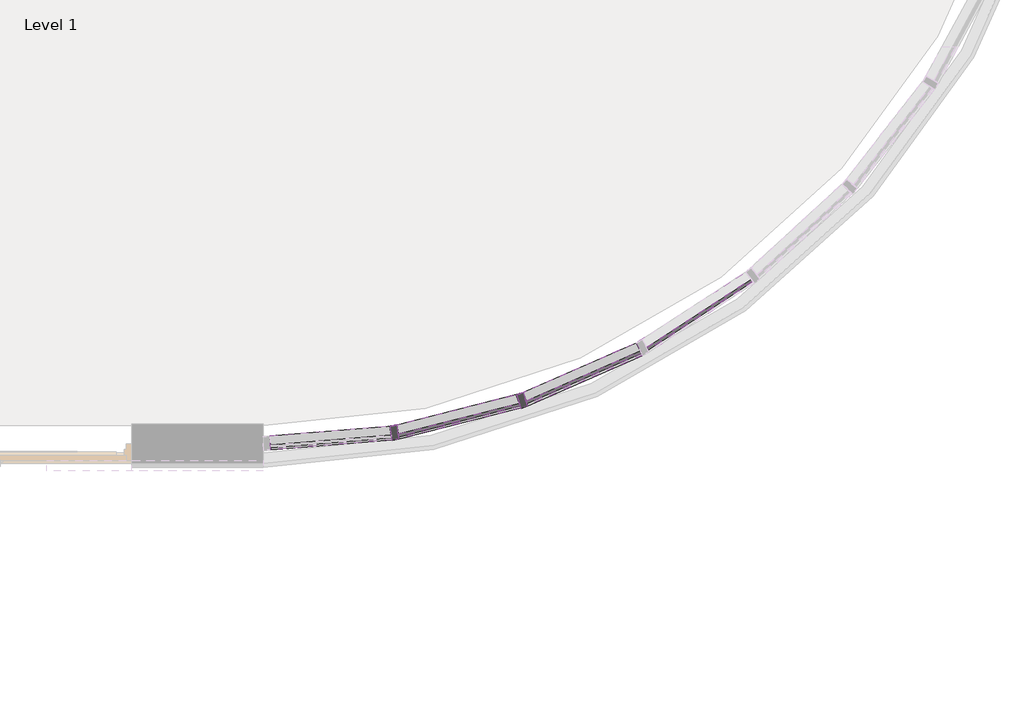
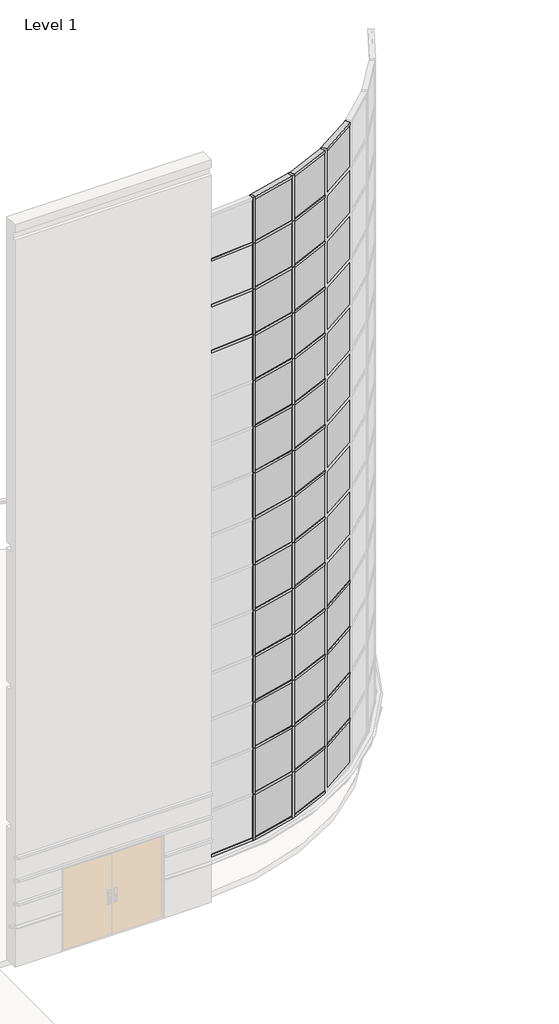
# One storey, part 5 of 20: 67 members, 42 plates.
"""IFC4 building model written with IfcOpenShell, lengths in millimetres."""

from ifc_helpers import new_model, si_unit, origin, place, context, project, spatial, transform, mapped, element, save
from components import member_68fe8548, member_252506b7, member_f830fa99, member_2e3765b8, member_935f61b8, system_panel_glazed_da602fa6, system_panel_glazed_77fd207e

model = new_model("IFC4")

# Units and contexts
model_context = context("Model", 3, world=origin())
ifc_project = project(units=[si_unit("LENGTHUNIT", "METRE", prefix="MILLI")], contexts=[model_context])

# Site, building, storey
site = spatial("IfcSite", under=ifc_project)
building = spatial("IfcBuilding", under=site)
storey = spatial("IfcBuildingStorey", under=building, Name="Level 1", Elevation=0.0)

# Members
placement = place(None, origin())
member_shape = member_68fe8548(model_context)
element("IfcMember", 1, ObjectType="Rectangular Mullion : 2.5\" x 5\" rectangular", at=placement, inside=storey, context=model_context, shape_type="MappedRepresentation", body=[
    mapped(member_shape, transform((21362.2965016, -8766.9966782, 17983.2), x_axis=(0.0, 0.0, 1.0), y_axis=(-0.5469481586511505, 0.8371664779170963, 0.0), z_axis=(-0.8371664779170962, -0.5469481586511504, 0.0))),
])
element("IfcMember", 2, ObjectType="Rectangular Mullion : 2.5\" x 5\" rectangular", at=placement, inside=storey, context=model_context, shape_type="MappedRepresentation", body=[
    mapped(member_shape, transform((20285.0352325, -9245.2338023, 17983.2), x_axis=(0.0, 0.0, 1.0), y_axis=(-0.4016954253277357, 0.9157733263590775, 0.0), z_axis=(-0.9157733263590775, -0.4016954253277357, 0.0))),
])
element("IfcMember", 3, ObjectType="Rectangular Mullion : 2.5\" x 5\" rectangular", at=placement, inside=storey, context=model_context, shape_type="MappedRepresentation", body=[
    mapped(member_shape, transform((19143.7511594, -9539.6370183, 17983.2), x_axis=(0.0, 0.0, 1.0), y_axis=(-0.24548548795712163, 0.9694002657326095, 0.0), z_axis=(-0.9694002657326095, -0.24548548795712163, 0.0))),
])
element("IfcMember", 4, ObjectType="Rectangular Mullion : 2.5\" x 5\" rectangular", at=placement, inside=storey, context=model_context, shape_type="MappedRepresentation", body=[
    mapped(member_shape, transform((21306.6406628, -8797.1161119, 1092.2), x_axis=(0.0, 0.0, -1.0), y_axis=(-0.401695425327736, 0.9157733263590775, 0.0), z_axis=(0.9157733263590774, 0.40169542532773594, 0.0))),
])
element("IfcMember", 5, ObjectType="Rectangular Mullion : 2.5\" x 5\" rectangular", at=placement, inside=storey, context=model_context, shape_type="MappedRepresentation", body=[
    mapped(member_shape, transform((20225.1809709, -9265.7817963, 1092.2), x_axis=(0.0, 0.0, -1.0), y_axis=(-0.24548548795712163, 0.9694002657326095, 0.0), z_axis=(0.9694002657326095, 0.24548548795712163, 0.0))),
])
member_2_shape = member_252506b7(model_context)
element("IfcMember", 6, ObjectType="Rectangular Mullion : 2.5\" x 5\" rectangular", at=placement, inside=storey, context=model_context, shape_type="MappedRepresentation", body=[
    mapped(member_2_shape, transform((19081.3311433, -9550.0530767, 1092.2), x_axis=(0.0, 0.0, -1.0), y_axis=(-0.08257934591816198, 0.9965844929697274, 0.0), z_axis=(0.9965844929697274, 0.08257934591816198, 0.0))),
])
member_3_shape = member_f830fa99(model_context)
element("IfcMember", 7, ObjectType="Rectangular Mullion : 2.5\" x 5\" rectangular", at=placement, inside=storey, context=model_context, shape_type="MappedRepresentation", body=[
    mapped(member_3_shape, transform((21362.2965016, -8766.9966782, 2298.7), x_axis=(0.0, 0.0, 1.0), y_axis=(-0.5469481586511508, 0.837166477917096, 0.0), z_axis=(-0.837166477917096, -0.5469481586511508, 0.0))),
])
element("IfcMember", 8, ObjectType="Rectangular Mullion : 2.5\" x 5\" rectangular", at=placement, inside=storey, context=model_context, shape_type="MappedRepresentation", body=[
    mapped(member_3_shape, transform((20285.0352325, -9245.2338023, 2298.7), x_axis=(0.0, 0.0, 1.0), y_axis=(-0.40169542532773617, 0.9157733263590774, 0.0), z_axis=(-0.9157733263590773, -0.4016954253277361, 0.0))),
])
element("IfcMember", 9, ObjectType="Rectangular Mullion : 2.5\" x 5\" rectangular", at=placement, inside=storey, context=model_context, shape_type="MappedRepresentation", body=[
    mapped(member_3_shape, transform((19143.7511594, -9539.6370183, 2298.7), x_axis=(0.0, 0.0, 1.0), y_axis=(-0.2454854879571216, 0.9694002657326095, 0.0), z_axis=(-0.9694002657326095, -0.2454854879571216, 0.0))),
])
element("IfcMember", 10, ObjectType="Rectangular Mullion : 2.5\" x 5\" rectangular", at=placement, inside=storey, context=model_context, shape_type="MappedRepresentation", body=[
    mapped(member_3_shape, transform((21362.2965016, -8766.9966782, 3505.2), x_axis=(0.0, 0.0, 1.0), y_axis=(-0.5469481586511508, 0.837166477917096, 0.0), z_axis=(-0.837166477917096, -0.5469481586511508, 0.0))),
])
element("IfcMember", 11, ObjectType="Rectangular Mullion : 2.5\" x 5\" rectangular", at=placement, inside=storey, context=model_context, shape_type="MappedRepresentation", body=[
    mapped(member_3_shape, transform((20285.0352325, -9245.2338023, 3505.2), x_axis=(0.0, 0.0, 1.0), y_axis=(-0.40169542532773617, 0.9157733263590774, 0.0), z_axis=(-0.9157733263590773, -0.4016954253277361, 0.0))),
])
element("IfcMember", 12, ObjectType="Rectangular Mullion : 2.5\" x 5\" rectangular", at=placement, inside=storey, context=model_context, shape_type="MappedRepresentation", body=[
    mapped(member_3_shape, transform((19143.7511594, -9539.6370183, 3505.2), x_axis=(0.0, 0.0, 1.0), y_axis=(-0.24548548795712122, 0.9694002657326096, 0.0), z_axis=(-0.9694002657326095, -0.2454854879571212, 0.0))),
])
element("IfcMember", 13, ObjectType="Rectangular Mullion : 2.5\" x 5\" rectangular", at=placement, inside=storey, context=model_context, shape_type="MappedRepresentation", body=[
    mapped(member_3_shape, transform((21362.2965016, -8766.9966782, 4711.7), x_axis=(0.0, 0.0, 1.0), y_axis=(-0.5469481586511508, 0.837166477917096, 0.0), z_axis=(-0.837166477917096, -0.5469481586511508, 0.0))),
])
element("IfcMember", 14, ObjectType="Rectangular Mullion : 2.5\" x 5\" rectangular", at=placement, inside=storey, context=model_context, shape_type="MappedRepresentation", body=[
    mapped(member_3_shape, transform((20285.0352325, -9245.2338023, 4711.7), x_axis=(0.0, 0.0, 1.0), y_axis=(-0.40169542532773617, 0.9157733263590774, 0.0), z_axis=(-0.9157733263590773, -0.4016954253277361, 0.0))),
])
element("IfcMember", 15, ObjectType="Rectangular Mullion : 2.5\" x 5\" rectangular", at=placement, inside=storey, context=model_context, shape_type="MappedRepresentation", body=[
    mapped(member_3_shape, transform((19143.7511594, -9539.6370183, 4711.7), x_axis=(0.0, 0.0, 1.0), y_axis=(-0.24548548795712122, 0.9694002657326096, 0.0), z_axis=(-0.9694002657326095, -0.2454854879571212, 0.0))),
])
element("IfcMember", 16, ObjectType="Rectangular Mullion : 2.5\" x 5\" rectangular", at=placement, inside=storey, context=model_context, shape_type="MappedRepresentation", body=[
    mapped(member_3_shape, transform((21362.2965016, -8766.9966782, 5918.2), x_axis=(0.0, 0.0, 1.0), y_axis=(-0.5469481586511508, 0.837166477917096, 0.0), z_axis=(-0.837166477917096, -0.5469481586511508, 0.0))),
])
element("IfcMember", 17, ObjectType="Rectangular Mullion : 2.5\" x 5\" rectangular", at=placement, inside=storey, context=model_context, shape_type="MappedRepresentation", body=[
    mapped(member_3_shape, transform((20285.0352325, -9245.2338023, 5918.2), x_axis=(0.0, 0.0, 1.0), y_axis=(-0.40169542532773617, 0.9157733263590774, 0.0), z_axis=(-0.9157733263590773, -0.4016954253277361, 0.0))),
])
element("IfcMember", 18, ObjectType="Rectangular Mullion : 2.5\" x 5\" rectangular", at=placement, inside=storey, context=model_context, shape_type="MappedRepresentation", body=[
    mapped(member_3_shape, transform((19143.7511594, -9539.6370183, 5918.2), x_axis=(0.0, 0.0, 1.0), y_axis=(-0.24548548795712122, 0.9694002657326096, 0.0), z_axis=(-0.9694002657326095, -0.2454854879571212, 0.0))),
])
element("IfcMember", 19, ObjectType="Rectangular Mullion : 2.5\" x 5\" rectangular", at=placement, inside=storey, context=model_context, shape_type="MappedRepresentation", body=[
    mapped(member_3_shape, transform((20285.0352325, -9245.2338023, 7124.7), x_axis=(0.0, 0.0, 1.0), y_axis=(-0.4016954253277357, 0.9157733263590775, 0.0), z_axis=(-0.9157733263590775, -0.4016954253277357, 0.0))),
])
element("IfcMember", 20, ObjectType="Rectangular Mullion : 2.5\" x 5\" rectangular", at=placement, inside=storey, context=model_context, shape_type="MappedRepresentation", body=[
    mapped(member_3_shape, transform((19143.7511594, -9539.6370183, 7124.7), x_axis=(0.0, 0.0, 1.0), y_axis=(-0.24548548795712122, 0.9694002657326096, 0.0), z_axis=(-0.9694002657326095, -0.2454854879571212, 0.0))),
])
element("IfcMember", 21, ObjectType="Rectangular Mullion : 2.5\" x 5\" rectangular", at=placement, inside=storey, context=model_context, shape_type="MappedRepresentation", body=[
    mapped(member_3_shape, transform((20285.0352325, -9245.2338023, 8331.2), x_axis=(0.0, 0.0, 1.0), y_axis=(-0.4016954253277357, 0.9157733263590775, 0.0), z_axis=(-0.9157733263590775, -0.4016954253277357, 0.0))),
])
element("IfcMember", 22, ObjectType="Rectangular Mullion : 2.5\" x 5\" rectangular", at=placement, inside=storey, context=model_context, shape_type="MappedRepresentation", body=[
    mapped(member_3_shape, transform((19143.7511594, -9539.6370183, 8331.2), x_axis=(0.0, 0.0, 1.0), y_axis=(-0.24548548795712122, 0.9694002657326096, 0.0), z_axis=(-0.9694002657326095, -0.2454854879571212, 0.0))),
])
element("IfcMember", 23, ObjectType="Rectangular Mullion : 2.5\" x 5\" rectangular", at=placement, inside=storey, context=model_context, shape_type="MappedRepresentation", body=[
    mapped(member_3_shape, transform((20285.0352325, -9245.2338023, 9537.7), x_axis=(0.0, 0.0, 1.0), y_axis=(-0.4016954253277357, 0.9157733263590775, 0.0), z_axis=(-0.9157733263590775, -0.4016954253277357, 0.0))),
])
element("IfcMember", 24, ObjectType="Rectangular Mullion : 2.5\" x 5\" rectangular", at=placement, inside=storey, context=model_context, shape_type="MappedRepresentation", body=[
    mapped(member_3_shape, transform((19143.7511594, -9539.6370183, 9537.7), x_axis=(0.0, 0.0, 1.0), y_axis=(-0.24548548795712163, 0.9694002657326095, 0.0), z_axis=(-0.9694002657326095, -0.24548548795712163, 0.0))),
])
element("IfcMember", 25, ObjectType="Rectangular Mullion : 2.5\" x 5\" rectangular", at=placement, inside=storey, context=model_context, shape_type="MappedRepresentation", body=[
    mapped(member_3_shape, transform((20285.0352325, -9245.2338023, 10744.2), x_axis=(0.0, 0.0, 1.0), y_axis=(-0.4016954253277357, 0.9157733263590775, 0.0), z_axis=(-0.9157733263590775, -0.4016954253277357, 0.0))),
])
element("IfcMember", 26, ObjectType="Rectangular Mullion : 2.5\" x 5\" rectangular", at=placement, inside=storey, context=model_context, shape_type="MappedRepresentation", body=[
    mapped(member_3_shape, transform((19143.7511594, -9539.6370183, 10744.2), x_axis=(0.0, 0.0, 1.0), y_axis=(-0.24548548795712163, 0.9694002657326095, 0.0), z_axis=(-0.9694002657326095, -0.24548548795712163, 0.0))),
])
element("IfcMember", 27, ObjectType="Rectangular Mullion : 2.5\" x 5\" rectangular", at=placement, inside=storey, context=model_context, shape_type="MappedRepresentation", body=[
    mapped(member_3_shape, transform((20285.0352325, -9245.2338023, 11950.7), x_axis=(0.0, 0.0, 1.0), y_axis=(-0.4016954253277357, 0.9157733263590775, 0.0), z_axis=(-0.9157733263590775, -0.4016954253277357, 0.0))),
])
element("IfcMember", 28, ObjectType="Rectangular Mullion : 2.5\" x 5\" rectangular", at=placement, inside=storey, context=model_context, shape_type="MappedRepresentation", body=[
    mapped(member_3_shape, transform((19143.7511594, -9539.6370183, 11950.7), x_axis=(0.0, 0.0, 1.0), y_axis=(-0.24548548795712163, 0.9694002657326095, 0.0), z_axis=(-0.9694002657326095, -0.24548548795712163, 0.0))),
])
element("IfcMember", 29, ObjectType="Rectangular Mullion : 2.5\" x 5\" rectangular", at=placement, inside=storey, context=model_context, shape_type="MappedRepresentation", body=[
    mapped(member_3_shape, transform((20285.0352325, -9245.2338023, 13157.2), x_axis=(0.0, 0.0, 1.0), y_axis=(-0.40169542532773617, 0.9157733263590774, 0.0), z_axis=(-0.9157733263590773, -0.4016954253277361, 0.0))),
])
element("IfcMember", 30, ObjectType="Rectangular Mullion : 2.5\" x 5\" rectangular", at=placement, inside=storey, context=model_context, shape_type="MappedRepresentation", body=[
    mapped(member_3_shape, transform((19143.7511594, -9539.6370183, 13157.2), x_axis=(0.0, 0.0, 1.0), y_axis=(-0.2454854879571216, 0.9694002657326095, 0.0), z_axis=(-0.9694002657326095, -0.2454854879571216, 0.0))),
])
element("IfcMember", 31, ObjectType="Rectangular Mullion : 2.5\" x 5\" rectangular", at=placement, inside=storey, context=model_context, shape_type="MappedRepresentation", body=[
    mapped(member_3_shape, transform((20285.0352325, -9245.2338023, 14363.7), x_axis=(0.0, 0.0, 1.0), y_axis=(-0.4016954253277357, 0.9157733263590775, 0.0), z_axis=(-0.9157733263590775, -0.4016954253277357, 0.0))),
])
element("IfcMember", 32, ObjectType="Rectangular Mullion : 2.5\" x 5\" rectangular", at=placement, inside=storey, context=model_context, shape_type="MappedRepresentation", body=[
    mapped(member_3_shape, transform((19143.7511594, -9539.6370183, 14363.7), x_axis=(0.0, 0.0, 1.0), y_axis=(-0.24548548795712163, 0.9694002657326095, 0.0), z_axis=(-0.9694002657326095, -0.24548548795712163, 0.0))),
])
element("IfcMember", 33, ObjectType="Rectangular Mullion : 2.5\" x 5\" rectangular", at=placement, inside=storey, context=model_context, shape_type="MappedRepresentation", body=[
    mapped(member_3_shape, transform((20285.0352325, -9245.2338023, 15570.2), x_axis=(0.0, 0.0, 1.0), y_axis=(-0.40169542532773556, 0.9157733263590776, 0.0), z_axis=(-0.9157733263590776, -0.40169542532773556, 0.0))),
])
element("IfcMember", 34, ObjectType="Rectangular Mullion : 2.5\" x 5\" rectangular", at=placement, inside=storey, context=model_context, shape_type="MappedRepresentation", body=[
    mapped(member_3_shape, transform((19143.7511594, -9539.6370183, 15570.2), x_axis=(0.0, 0.0, 1.0), y_axis=(-0.24548548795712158, 0.9694002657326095, 0.0), z_axis=(-0.9694002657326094, -0.24548548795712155, 0.0))),
])
element("IfcMember", 35, ObjectType="Rectangular Mullion : 2.5\" x 5\" rectangular", at=placement, inside=storey, context=model_context, shape_type="MappedRepresentation", body=[
    mapped(member_3_shape, transform((20285.0352325, -9245.2338023, 16776.7), x_axis=(0.0, 0.0, 1.0), y_axis=(-0.40169542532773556, 0.9157733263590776, 0.0), z_axis=(-0.9157733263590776, -0.40169542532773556, 0.0))),
])
element("IfcMember", 36, ObjectType="Rectangular Mullion : 2.5\" x 5\" rectangular", at=placement, inside=storey, context=model_context, shape_type="MappedRepresentation", body=[
    mapped(member_3_shape, transform((19143.7511594, -9539.6370183, 16776.7), x_axis=(0.0, 0.0, 1.0), y_axis=(-0.24548548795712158, 0.9694002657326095, 0.0), z_axis=(-0.9694002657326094, -0.24548548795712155, 0.0))),
])
member_4_shape = member_2e3765b8(model_context)
element("IfcMember", 37, ObjectType="Rectangular Mullion : 2.5\" x 5\" rectangular", at=placement, inside=storey, context=model_context, shape_type="MappedRepresentation", body=[
    mapped(member_4_shape, transform((18001.2170874, -9639.5538796, 14363.7), x_axis=(0.0, 0.0, 1.0), y_axis=(-0.08257934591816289, 0.9965844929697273, 0.0), z_axis=(-0.9965844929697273, -0.08257934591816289, 0.0))),
])
element("IfcMember", 38, ObjectType="Rectangular Mullion : 2.5\" x 5\" rectangular", at=placement, inside=storey, context=model_context, shape_type="MappedRepresentation", body=[
    mapped(member_4_shape, transform((18001.2170874, -9639.5538796, 15570.2), x_axis=(0.0, 0.0, 1.0), y_axis=(-0.08257934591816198, 0.9965844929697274, 0.0), z_axis=(-0.9965844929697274, -0.08257934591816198, 0.0))),
])
element("IfcMember", 39, ObjectType="Rectangular Mullion : 2.5\" x 5\" rectangular", at=placement, inside=storey, context=model_context, shape_type="MappedRepresentation", body=[
    mapped(member_4_shape, transform((18001.2170874, -9639.5538796, 16776.7), x_axis=(0.0, 0.0, 1.0), y_axis=(-0.08257934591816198, 0.9965844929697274, 0.0), z_axis=(-0.9965844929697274, -0.08257934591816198, 0.0))),
])
member_5_shape = member_935f61b8(model_context)
element("IfcMember", 40, ObjectType="Rectangular Mullion : 2.5\" x 5\" rectangular", at=placement, inside=storey, context=model_context, shape_type="MappedRepresentation", body=[
    mapped(member_5_shape, transform((20255.9594293, -9257.987632, 1092.2), x_axis=(-0.9458172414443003, -0.3246994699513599, 0.0), y_axis=(-0.3246994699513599, 0.9458172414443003, 0.0), z_axis=(0.0, 0.0, -1.0))),
])
element("IfcMember", 41, ObjectType="Rectangular Mullion : 2.5\" x 5\" rectangular", at=placement, inside=storey, context=model_context, shape_type="MappedRepresentation", body=[
    mapped(member_5_shape, transform((19112.972701, -9547.4311825, 1092.2), x_axis=(-0.986361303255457, -0.16459459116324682, 0.0), y_axis=(-0.16459459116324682, 0.986361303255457, 0.0), z_axis=(0.0, 0.0, -1.0))),
])
element("IfcMember", 42, ObjectType="Rectangular Mullion : 2.5\" x 5\" rectangular", at=placement, inside=storey, context=model_context, shape_type="MappedRepresentation", body=[
    mapped(member_5_shape, transform((20255.9594293, -9257.987632, 2298.7), x_axis=(-0.9458172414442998, -0.32469946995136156, 0.0), y_axis=(-0.32469946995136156, 0.9458172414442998, 0.0), z_axis=(0.0, 0.0, -1.0))),
])
element("IfcMember", 43, ObjectType="Rectangular Mullion : 2.5\" x 5\" rectangular", at=placement, inside=storey, context=model_context, shape_type="MappedRepresentation", body=[
    mapped(member_5_shape, transform((19112.972701, -9547.4311825, 2298.7), x_axis=(-0.986361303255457, -0.16459459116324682, 0.0), y_axis=(-0.16459459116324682, 0.986361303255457, 0.0), z_axis=(0.0, 0.0, -1.0))),
])
element("IfcMember", 44, ObjectType="Rectangular Mullion : 2.5\" x 5\" rectangular", at=placement, inside=storey, context=model_context, shape_type="MappedRepresentation", body=[
    mapped(member_5_shape, transform((20255.9594293, -9257.987632, 3505.2), x_axis=(-0.9458172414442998, -0.32469946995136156, 0.0), y_axis=(-0.32469946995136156, 0.9458172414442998, 0.0), z_axis=(0.0, 0.0, -1.0))),
])
element("IfcMember", 45, ObjectType="Rectangular Mullion : 2.5\" x 5\" rectangular", at=placement, inside=storey, context=model_context, shape_type="MappedRepresentation", body=[
    mapped(member_5_shape, transform((19112.972701, -9547.4311825, 3505.2), x_axis=(-0.986361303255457, -0.16459459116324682, 0.0), y_axis=(-0.16459459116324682, 0.986361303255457, 0.0), z_axis=(0.0, 0.0, -1.0))),
])
element("IfcMember", 46, ObjectType="Rectangular Mullion : 2.5\" x 5\" rectangular", at=placement, inside=storey, context=model_context, shape_type="MappedRepresentation", body=[
    mapped(member_5_shape, transform((20255.9594293, -9257.987632, 4711.7), x_axis=(-0.9458172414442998, -0.32469946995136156, 0.0), y_axis=(-0.32469946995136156, 0.9458172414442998, 0.0), z_axis=(0.0, 0.0, -1.0))),
])
element("IfcMember", 47, ObjectType="Rectangular Mullion : 2.5\" x 5\" rectangular", at=placement, inside=storey, context=model_context, shape_type="MappedRepresentation", body=[
    mapped(member_5_shape, transform((19112.972701, -9547.4311825, 4711.7), x_axis=(-0.986361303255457, -0.16459459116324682, 0.0), y_axis=(-0.16459459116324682, 0.986361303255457, 0.0), z_axis=(0.0, 0.0, -1.0))),
])
element("IfcMember", 48, ObjectType="Rectangular Mullion : 2.5\" x 5\" rectangular", at=placement, inside=storey, context=model_context, shape_type="MappedRepresentation", body=[
    mapped(member_5_shape, transform((20255.9594293, -9257.987632, 5918.2), x_axis=(-0.9458172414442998, -0.32469946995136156, 0.0), y_axis=(-0.32469946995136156, 0.9458172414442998, 0.0), z_axis=(0.0, 0.0, -1.0))),
])
element("IfcMember", 49, ObjectType="Rectangular Mullion : 2.5\" x 5\" rectangular", at=placement, inside=storey, context=model_context, shape_type="MappedRepresentation", body=[
    mapped(member_5_shape, transform((19112.972701, -9547.4311825, 5918.2), x_axis=(-0.986361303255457, -0.16459459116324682, 0.0), y_axis=(-0.16459459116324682, 0.986361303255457, 0.0), z_axis=(0.0, 0.0, -1.0))),
])
element("IfcMember", 50, ObjectType="Rectangular Mullion : 2.5\" x 5\" rectangular", at=placement, inside=storey, context=model_context, shape_type="MappedRepresentation", body=[
    mapped(member_5_shape, transform((20255.9594293, -9257.987632, 7124.7), x_axis=(-0.9458172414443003, -0.3246994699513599, 0.0), y_axis=(-0.3246994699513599, 0.9458172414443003, 0.0), z_axis=(0.0, 0.0, -1.0))),
])
element("IfcMember", 51, ObjectType="Rectangular Mullion : 2.5\" x 5\" rectangular", at=placement, inside=storey, context=model_context, shape_type="MappedRepresentation", body=[
    mapped(member_5_shape, transform((19112.972701, -9547.4311825, 7124.7), x_axis=(-0.986361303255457, -0.16459459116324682, 0.0), y_axis=(-0.16459459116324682, 0.986361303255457, 0.0), z_axis=(0.0, 0.0, -1.0))),
])
element("IfcMember", 52, ObjectType="Rectangular Mullion : 2.5\" x 5\" rectangular", at=placement, inside=storey, context=model_context, shape_type="MappedRepresentation", body=[
    mapped(member_5_shape, transform((20255.9594293, -9257.987632, 8331.2), x_axis=(-0.9458172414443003, -0.3246994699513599, 0.0), y_axis=(-0.3246994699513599, 0.9458172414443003, 0.0), z_axis=(0.0, 0.0, -1.0))),
])
element("IfcMember", 53, ObjectType="Rectangular Mullion : 2.5\" x 5\" rectangular", at=placement, inside=storey, context=model_context, shape_type="MappedRepresentation", body=[
    mapped(member_5_shape, transform((19112.972701, -9547.4311825, 8331.2), x_axis=(-0.986361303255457, -0.16459459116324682, 0.0), y_axis=(-0.16459459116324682, 0.986361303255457, 0.0), z_axis=(0.0, 0.0, -1.0))),
])
element("IfcMember", 54, ObjectType="Rectangular Mullion : 2.5\" x 5\" rectangular", at=placement, inside=storey, context=model_context, shape_type="MappedRepresentation", body=[
    mapped(member_5_shape, transform((20255.9594293, -9257.987632, 9537.7), x_axis=(-0.9458172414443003, -0.3246994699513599, 0.0), y_axis=(-0.3246994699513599, 0.9458172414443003, 0.0), z_axis=(0.0, 0.0, -1.0))),
])
element("IfcMember", 55, ObjectType="Rectangular Mullion : 2.5\" x 5\" rectangular", at=placement, inside=storey, context=model_context, shape_type="MappedRepresentation", body=[
    mapped(member_5_shape, transform((19112.972701, -9547.4311825, 9537.7), x_axis=(-0.986361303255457, -0.16459459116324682, 0.0), y_axis=(-0.16459459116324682, 0.986361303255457, 0.0), z_axis=(0.0, 0.0, -1.0))),
])
element("IfcMember", 56, ObjectType="Rectangular Mullion : 2.5\" x 5\" rectangular", at=placement, inside=storey, context=model_context, shape_type="MappedRepresentation", body=[
    mapped(member_5_shape, transform((20255.9594293, -9257.987632, 10744.2), x_axis=(-0.9458172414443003, -0.3246994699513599, 0.0), y_axis=(-0.3246994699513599, 0.9458172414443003, 0.0), z_axis=(0.0, 0.0, -1.0))),
])
element("IfcMember", 57, ObjectType="Rectangular Mullion : 2.5\" x 5\" rectangular", at=placement, inside=storey, context=model_context, shape_type="MappedRepresentation", body=[
    mapped(member_5_shape, transform((19112.972701, -9547.4311825, 10744.2), x_axis=(-0.986361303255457, -0.16459459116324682, 0.0), y_axis=(-0.16459459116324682, 0.986361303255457, 0.0), z_axis=(0.0, 0.0, -1.0))),
])
element("IfcMember", 58, ObjectType="Rectangular Mullion : 2.5\" x 5\" rectangular", at=placement, inside=storey, context=model_context, shape_type="MappedRepresentation", body=[
    mapped(member_5_shape, transform((20255.9594293, -9257.987632, 11950.7), x_axis=(-0.9458172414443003, -0.3246994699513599, 0.0), y_axis=(-0.3246994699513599, 0.9458172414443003, 0.0), z_axis=(0.0, 0.0, -1.0))),
])
element("IfcMember", 59, ObjectType="Rectangular Mullion : 2.5\" x 5\" rectangular", at=placement, inside=storey, context=model_context, shape_type="MappedRepresentation", body=[
    mapped(member_5_shape, transform((19112.972701, -9547.4311825, 11950.7), x_axis=(-0.986361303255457, -0.16459459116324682, 0.0), y_axis=(-0.16459459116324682, 0.986361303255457, 0.0), z_axis=(0.0, 0.0, -1.0))),
])
element("IfcMember", 60, ObjectType="Rectangular Mullion : 2.5\" x 5\" rectangular", at=placement, inside=storey, context=model_context, shape_type="MappedRepresentation", body=[
    mapped(member_5_shape, transform((20255.9594293, -9257.987632, 13157.2), x_axis=(-0.9458172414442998, -0.32469946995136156, 0.0), y_axis=(-0.32469946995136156, 0.9458172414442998, 0.0), z_axis=(0.0, 0.0, -1.0))),
])
element("IfcMember", 61, ObjectType="Rectangular Mullion : 2.5\" x 5\" rectangular", at=placement, inside=storey, context=model_context, shape_type="MappedRepresentation", body=[
    mapped(member_5_shape, transform((19112.972701, -9547.4311825, 13157.2), x_axis=(-0.986361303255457, -0.16459459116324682, 0.0), y_axis=(-0.16459459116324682, 0.986361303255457, 0.0), z_axis=(0.0, 0.0, -1.0))),
])
element("IfcMember", 62, ObjectType="Rectangular Mullion : 2.5\" x 5\" rectangular", at=placement, inside=storey, context=model_context, shape_type="MappedRepresentation", body=[
    mapped(member_5_shape, transform((20255.9594293, -9257.987632, 14363.7), x_axis=(-0.9458172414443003, -0.3246994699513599, 0.0), y_axis=(-0.3246994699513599, 0.9458172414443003, 0.0), z_axis=(0.0, 0.0, -1.0))),
])
element("IfcMember", 63, ObjectType="Rectangular Mullion : 2.5\" x 5\" rectangular", at=placement, inside=storey, context=model_context, shape_type="MappedRepresentation", body=[
    mapped(member_5_shape, transform((19112.972701, -9547.4311825, 14363.7), x_axis=(-0.986361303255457, -0.16459459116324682, 0.0), y_axis=(-0.16459459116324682, 0.986361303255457, 0.0), z_axis=(0.0, 0.0, -1.0))),
])
element("IfcMember", 64, ObjectType="Rectangular Mullion : 2.5\" x 5\" rectangular", at=placement, inside=storey, context=model_context, shape_type="MappedRepresentation", body=[
    mapped(member_5_shape, transform((20255.9594293, -9257.987632, 15570.2), x_axis=(-0.9458172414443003, -0.3246994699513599, 0.0), y_axis=(-0.3246994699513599, 0.9458172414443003, 0.0), z_axis=(0.0, 0.0, -1.0))),
])
element("IfcMember", 65, ObjectType="Rectangular Mullion : 2.5\" x 5\" rectangular", at=placement, inside=storey, context=model_context, shape_type="MappedRepresentation", body=[
    mapped(member_5_shape, transform((19112.972701, -9547.4311825, 15570.2), x_axis=(-0.9863613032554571, -0.16459459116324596, 0.0), y_axis=(-0.16459459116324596, 0.9863613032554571, 0.0), z_axis=(0.0, 0.0, -1.0))),
])
element("IfcMember", 66, ObjectType="Rectangular Mullion : 2.5\" x 5\" rectangular", at=placement, inside=storey, context=model_context, shape_type="MappedRepresentation", body=[
    mapped(member_5_shape, transform((20255.9594293, -9257.987632, 16776.7), x_axis=(-0.9458172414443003, -0.3246994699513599, 0.0), y_axis=(-0.3246994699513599, 0.9458172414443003, 0.0), z_axis=(0.0, 0.0, -1.0))),
])
element("IfcMember", 67, ObjectType="Rectangular Mullion : 2.5\" x 5\" rectangular", at=placement, inside=storey, context=model_context, shape_type="MappedRepresentation", body=[
    mapped(member_5_shape, transform((19112.972701, -9547.4311825, 16776.7), x_axis=(-0.9863613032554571, -0.16459459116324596, 0.0), y_axis=(-0.16459459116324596, 0.9863613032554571, 0.0), z_axis=(0.0, 0.0, -1.0))),
])

# Plates
system_panel_glazed_shape = system_panel_glazed_da602fa6(model_context)
element("IfcPlate", 68, ObjectType="System Panel : Glazed", at=placement, inside=storey, context=model_context, shape_type="MappedRepresentation", body=[
    mapped(system_panel_glazed_shape, transform((21829.2536598, -8461.91834, 1155.7), x_axis=(-0.8371664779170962, -0.5469481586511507, 0.0), y_axis=(0.5469481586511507, -0.8371664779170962, 0.0), z_axis=(0.0, 0.0, 1.0))),
])
element("IfcPlate", 69, ObjectType="System Panel : Glazed", at=placement, inside=storey, context=model_context, shape_type="MappedRepresentation", body=[
    mapped(system_panel_glazed_shape, transform((20795.8379476, -9021.1749571, 1155.7), x_axis=(-0.9157733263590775, -0.40169542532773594, 0.0), y_axis=(0.40169542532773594, -0.9157733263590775, 0.0), z_axis=(0.0, 0.0, 1.0))),
])
element("IfcPlate", 70, ObjectType="System Panel : Glazed", at=placement, inside=storey, context=model_context, shape_type="MappedRepresentation", body=[
    mapped(system_panel_glazed_shape, transform((19684.4660652, -9402.7094073, 1155.7), x_axis=(-0.9694002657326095, -0.24548548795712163, 0.0), y_axis=(0.24548548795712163, -0.9694002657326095, 0.0), z_axis=(0.0, 0.0, 1.0))),
])
element("IfcPlate", 71, ObjectType="System Panel : Glazed", at=placement, inside=storey, context=model_context, shape_type="MappedRepresentation", body=[
    mapped(system_panel_glazed_shape, transform((21829.2536598, -8461.91834, 16808.45), x_axis=(-0.8371664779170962, -0.5469481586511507, 0.0), y_axis=(0.5469481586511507, -0.8371664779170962, 0.0), z_axis=(0.0, 0.0, 1.0))),
])
element("IfcPlate", 72, ObjectType="System Panel : Glazed", at=placement, inside=storey, context=model_context, shape_type="MappedRepresentation", body=[
    mapped(system_panel_glazed_shape, transform((20795.8379476, -9021.1749571, 16808.45), x_axis=(-0.9157733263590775, -0.40169542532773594, 0.0), y_axis=(0.40169542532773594, -0.9157733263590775, 0.0), z_axis=(0.0, 0.0, 1.0))),
])
element("IfcPlate", 73, ObjectType="System Panel : Glazed", at=placement, inside=storey, context=model_context, shape_type="MappedRepresentation", body=[
    mapped(system_panel_glazed_shape, transform((19684.4660652, -9402.7094073, 16808.45), x_axis=(-0.9694002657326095, -0.24548548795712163, 0.0), y_axis=(0.24548548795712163, -0.9694002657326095, 0.0), z_axis=(0.0, 0.0, 1.0))),
])
system_panel_glazed_2_shape = system_panel_glazed_77fd207e(model_context)
element("IfcPlate", 74, ObjectType="System Panel : Glazed", at=placement, inside=storey, context=model_context, shape_type="MappedRepresentation", body=[
    mapped(system_panel_glazed_2_shape, transform((21829.2536598, -8461.91834, 2330.45), x_axis=(-0.8371664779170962, -0.5469481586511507, 0.0), y_axis=(0.5469481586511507, -0.8371664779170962, 0.0), z_axis=(0.0, 0.0, 1.0))),
])
element("IfcPlate", 75, ObjectType="System Panel : Glazed", at=placement, inside=storey, context=model_context, shape_type="MappedRepresentation", body=[
    mapped(system_panel_glazed_2_shape, transform((20795.8379476, -9021.1749571, 2330.45), x_axis=(-0.9157733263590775, -0.401695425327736, 0.0), y_axis=(0.401695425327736, -0.9157733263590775, 0.0), z_axis=(0.0, 0.0, 1.0))),
])
element("IfcPlate", 76, ObjectType="System Panel : Glazed", at=placement, inside=storey, context=model_context, shape_type="MappedRepresentation", body=[
    mapped(system_panel_glazed_2_shape, transform((19684.4660652, -9402.7094073, 2330.45), x_axis=(-0.9694002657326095, -0.24548548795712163, 0.0), y_axis=(0.24548548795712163, -0.9694002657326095, 0.0), z_axis=(0.0, 0.0, 1.0))),
])
element("IfcPlate", 77, ObjectType="System Panel : Glazed", at=placement, inside=storey, context=model_context, shape_type="MappedRepresentation", body=[
    mapped(system_panel_glazed_2_shape, transform((21829.2536598, -8461.91834, 3536.95), x_axis=(-0.8371664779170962, -0.5469481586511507, 0.0), y_axis=(0.5469481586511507, -0.8371664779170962, 0.0), z_axis=(0.0, 0.0, 1.0))),
])
element("IfcPlate", 78, ObjectType="System Panel : Glazed", at=placement, inside=storey, context=model_context, shape_type="MappedRepresentation", body=[
    mapped(system_panel_glazed_2_shape, transform((20795.8379476, -9021.1749571, 3536.95), x_axis=(-0.9157733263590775, -0.401695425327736, 0.0), y_axis=(0.401695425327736, -0.9157733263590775, 0.0), z_axis=(0.0, 0.0, 1.0))),
])
element("IfcPlate", 79, ObjectType="System Panel : Glazed", at=placement, inside=storey, context=model_context, shape_type="MappedRepresentation", body=[
    mapped(system_panel_glazed_2_shape, transform((19684.4660652, -9402.7094073, 3536.95), x_axis=(-0.9694002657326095, -0.24548548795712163, 0.0), y_axis=(0.24548548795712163, -0.9694002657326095, 0.0), z_axis=(0.0, 0.0, 1.0))),
])
element("IfcPlate", 80, ObjectType="System Panel : Glazed", at=placement, inside=storey, context=model_context, shape_type="MappedRepresentation", body=[
    mapped(system_panel_glazed_2_shape, transform((21829.2536598, -8461.91834, 4743.45), x_axis=(-0.8371664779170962, -0.5469481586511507, 0.0), y_axis=(0.5469481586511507, -0.8371664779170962, 0.0), z_axis=(0.0, 0.0, 1.0))),
])
element("IfcPlate", 81, ObjectType="System Panel : Glazed", at=placement, inside=storey, context=model_context, shape_type="MappedRepresentation", body=[
    mapped(system_panel_glazed_2_shape, transform((20795.8379476, -9021.1749571, 4743.45), x_axis=(-0.9157733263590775, -0.40169542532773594, 0.0), y_axis=(0.40169542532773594, -0.9157733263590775, 0.0), z_axis=(0.0, 0.0, 1.0))),
])
element("IfcPlate", 82, ObjectType="System Panel : Glazed", at=placement, inside=storey, context=model_context, shape_type="MappedRepresentation", body=[
    mapped(system_panel_glazed_2_shape, transform((19684.4660652, -9402.7094073, 4743.45), x_axis=(-0.9694002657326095, -0.24548548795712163, 0.0), y_axis=(0.24548548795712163, -0.9694002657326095, 0.0), z_axis=(0.0, 0.0, 1.0))),
])
element("IfcPlate", 83, ObjectType="System Panel : Glazed", at=placement, inside=storey, context=model_context, shape_type="MappedRepresentation", body=[
    mapped(system_panel_glazed_2_shape, transform((21829.2536598, -8461.91834, 5949.95), x_axis=(-0.8371664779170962, -0.5469481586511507, 0.0), y_axis=(0.5469481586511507, -0.8371664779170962, 0.0), z_axis=(0.0, 0.0, 1.0))),
])
element("IfcPlate", 84, ObjectType="System Panel : Glazed", at=placement, inside=storey, context=model_context, shape_type="MappedRepresentation", body=[
    mapped(system_panel_glazed_2_shape, transform((20795.8379476, -9021.1749571, 5949.95), x_axis=(-0.9157733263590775, -0.401695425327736, 0.0), y_axis=(0.401695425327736, -0.9157733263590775, 0.0), z_axis=(0.0, 0.0, 1.0))),
])
element("IfcPlate", 85, ObjectType="System Panel : Glazed", at=placement, inside=storey, context=model_context, shape_type="MappedRepresentation", body=[
    mapped(system_panel_glazed_2_shape, transform((19684.4660652, -9402.7094073, 5949.95), x_axis=(-0.9694002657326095, -0.24548548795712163, 0.0), y_axis=(0.24548548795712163, -0.9694002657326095, 0.0), z_axis=(0.0, 0.0, 1.0))),
])
element("IfcPlate", 86, ObjectType="System Panel : Glazed", at=placement, inside=storey, context=model_context, shape_type="MappedRepresentation", body=[
    mapped(system_panel_glazed_2_shape, transform((21829.2536598, -8461.91834, 7156.45), x_axis=(-0.8371664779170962, -0.5469481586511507, 0.0), y_axis=(0.5469481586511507, -0.8371664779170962, 0.0), z_axis=(0.0, 0.0, 1.0))),
])
element("IfcPlate", 87, ObjectType="System Panel : Glazed", at=placement, inside=storey, context=model_context, shape_type="MappedRepresentation", body=[
    mapped(system_panel_glazed_2_shape, transform((20795.8379476, -9021.1749571, 7156.45), x_axis=(-0.9157733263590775, -0.401695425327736, 0.0), y_axis=(0.401695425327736, -0.9157733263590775, 0.0), z_axis=(0.0, 0.0, 1.0))),
])
element("IfcPlate", 88, ObjectType="System Panel : Glazed", at=placement, inside=storey, context=model_context, shape_type="MappedRepresentation", body=[
    mapped(system_panel_glazed_2_shape, transform((19684.4660652, -9402.7094073, 7156.45), x_axis=(-0.9694002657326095, -0.24548548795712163, 0.0), y_axis=(0.24548548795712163, -0.9694002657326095, 0.0), z_axis=(0.0, 0.0, 1.0))),
])
element("IfcPlate", 89, ObjectType="System Panel : Glazed", at=placement, inside=storey, context=model_context, shape_type="MappedRepresentation", body=[
    mapped(system_panel_glazed_2_shape, transform((21829.2536598, -8461.91834, 8362.95), x_axis=(-0.8371664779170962, -0.5469481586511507, 0.0), y_axis=(0.5469481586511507, -0.8371664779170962, 0.0), z_axis=(0.0, 0.0, 1.0))),
])
element("IfcPlate", 90, ObjectType="System Panel : Glazed", at=placement, inside=storey, context=model_context, shape_type="MappedRepresentation", body=[
    mapped(system_panel_glazed_2_shape, transform((20795.8379476, -9021.1749571, 8362.95), x_axis=(-0.9157733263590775, -0.401695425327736, 0.0), y_axis=(0.401695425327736, -0.9157733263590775, 0.0), z_axis=(0.0, 0.0, 1.0))),
])
element("IfcPlate", 91, ObjectType="System Panel : Glazed", at=placement, inside=storey, context=model_context, shape_type="MappedRepresentation", body=[
    mapped(system_panel_glazed_2_shape, transform((19684.4660652, -9402.7094073, 8362.95), x_axis=(-0.9694002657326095, -0.24548548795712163, 0.0), y_axis=(0.24548548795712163, -0.9694002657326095, 0.0), z_axis=(0.0, 0.0, 1.0))),
])
element("IfcPlate", 92, ObjectType="System Panel : Glazed", at=placement, inside=storey, context=model_context, shape_type="MappedRepresentation", body=[
    mapped(system_panel_glazed_2_shape, transform((21829.2536598, -8461.91834, 9569.45), x_axis=(-0.8371664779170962, -0.5469481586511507, 0.0), y_axis=(0.5469481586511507, -0.8371664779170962, 0.0), z_axis=(0.0, 0.0, 1.0))),
])
element("IfcPlate", 93, ObjectType="System Panel : Glazed", at=placement, inside=storey, context=model_context, shape_type="MappedRepresentation", body=[
    mapped(system_panel_glazed_2_shape, transform((20795.8379476, -9021.1749571, 9569.45), x_axis=(-0.9157733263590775, -0.401695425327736, 0.0), y_axis=(0.401695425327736, -0.9157733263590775, 0.0), z_axis=(0.0, 0.0, 1.0))),
])
element("IfcPlate", 94, ObjectType="System Panel : Glazed", at=placement, inside=storey, context=model_context, shape_type="MappedRepresentation", body=[
    mapped(system_panel_glazed_2_shape, transform((19684.4660652, -9402.7094073, 9569.45), x_axis=(-0.9694002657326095, -0.24548548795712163, 0.0), y_axis=(0.24548548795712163, -0.9694002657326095, 0.0), z_axis=(0.0, 0.0, 1.0))),
])
element("IfcPlate", 95, ObjectType="System Panel : Glazed", at=placement, inside=storey, context=model_context, shape_type="MappedRepresentation", body=[
    mapped(system_panel_glazed_2_shape, transform((21829.2536598, -8461.91834, 10775.95), x_axis=(-0.8371664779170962, -0.5469481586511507, 0.0), y_axis=(0.5469481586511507, -0.8371664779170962, 0.0), z_axis=(0.0, 0.0, 1.0))),
])
element("IfcPlate", 96, ObjectType="System Panel : Glazed", at=placement, inside=storey, context=model_context, shape_type="MappedRepresentation", body=[
    mapped(system_panel_glazed_2_shape, transform((20795.8379476, -9021.1749571, 10775.95), x_axis=(-0.9157733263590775, -0.40169542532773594, 0.0), y_axis=(0.40169542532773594, -0.9157733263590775, 0.0), z_axis=(0.0, 0.0, 1.0))),
])
element("IfcPlate", 97, ObjectType="System Panel : Glazed", at=placement, inside=storey, context=model_context, shape_type="MappedRepresentation", body=[
    mapped(system_panel_glazed_2_shape, transform((19684.4660652, -9402.7094073, 10775.95), x_axis=(-0.9694002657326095, -0.2454854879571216, 0.0), y_axis=(0.2454854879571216, -0.9694002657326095, 0.0), z_axis=(0.0, 0.0, 1.0))),
])
element("IfcPlate", 98, ObjectType="System Panel : Glazed", at=placement, inside=storey, context=model_context, shape_type="MappedRepresentation", body=[
    mapped(system_panel_glazed_2_shape, transform((21829.2536598, -8461.91834, 11982.45), x_axis=(-0.8371664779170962, -0.5469481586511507, 0.0), y_axis=(0.5469481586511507, -0.8371664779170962, 0.0), z_axis=(0.0, 0.0, 1.0))),
])
element("IfcPlate", 99, ObjectType="System Panel : Glazed", at=placement, inside=storey, context=model_context, shape_type="MappedRepresentation", body=[
    mapped(system_panel_glazed_2_shape, transform((20795.8379476, -9021.1749571, 11982.45), x_axis=(-0.9157733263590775, -0.40169542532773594, 0.0), y_axis=(0.40169542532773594, -0.9157733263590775, 0.0), z_axis=(0.0, 0.0, 1.0))),
])
element("IfcPlate", 100, ObjectType="System Panel : Glazed", at=placement, inside=storey, context=model_context, shape_type="MappedRepresentation", body=[
    mapped(system_panel_glazed_2_shape, transform((19684.4660652, -9402.7094073, 11982.45), x_axis=(-0.9694002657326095, -0.2454854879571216, 0.0), y_axis=(0.2454854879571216, -0.9694002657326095, 0.0), z_axis=(0.0, 0.0, 1.0))),
])
element("IfcPlate", 101, ObjectType="System Panel : Glazed", at=placement, inside=storey, context=model_context, shape_type="MappedRepresentation", body=[
    mapped(system_panel_glazed_2_shape, transform((21829.2536598, -8461.91834, 13188.95), x_axis=(-0.8371664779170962, -0.5469481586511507, 0.0), y_axis=(0.5469481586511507, -0.8371664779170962, 0.0), z_axis=(0.0, 0.0, 1.0))),
])
element("IfcPlate", 102, ObjectType="System Panel : Glazed", at=placement, inside=storey, context=model_context, shape_type="MappedRepresentation", body=[
    mapped(system_panel_glazed_2_shape, transform((20795.8379476, -9021.1749571, 13188.95), x_axis=(-0.9157733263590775, -0.40169542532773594, 0.0), y_axis=(0.40169542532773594, -0.9157733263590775, 0.0), z_axis=(0.0, 0.0, 1.0))),
])
element("IfcPlate", 103, ObjectType="System Panel : Glazed", at=placement, inside=storey, context=model_context, shape_type="MappedRepresentation", body=[
    mapped(system_panel_glazed_2_shape, transform((19684.4660652, -9402.7094073, 13188.95), x_axis=(-0.9694002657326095, -0.2454854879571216, 0.0), y_axis=(0.2454854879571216, -0.9694002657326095, 0.0), z_axis=(0.0, 0.0, 1.0))),
])
element("IfcPlate", 104, ObjectType="System Panel : Glazed", at=placement, inside=storey, context=model_context, shape_type="MappedRepresentation", body=[
    mapped(system_panel_glazed_2_shape, transform((21829.2536598, -8461.91834, 14395.45), x_axis=(-0.8371664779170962, -0.5469481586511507, 0.0), y_axis=(0.5469481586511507, -0.8371664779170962, 0.0), z_axis=(0.0, 0.0, 1.0))),
])
element("IfcPlate", 105, ObjectType="System Panel : Glazed", at=placement, inside=storey, context=model_context, shape_type="MappedRepresentation", body=[
    mapped(system_panel_glazed_2_shape, transform((20795.8379476, -9021.1749571, 14395.45), x_axis=(-0.9157733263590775, -0.40169542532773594, 0.0), y_axis=(0.40169542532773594, -0.9157733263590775, 0.0), z_axis=(0.0, 0.0, 1.0))),
])
element("IfcPlate", 106, ObjectType="System Panel : Glazed", at=placement, inside=storey, context=model_context, shape_type="MappedRepresentation", body=[
    mapped(system_panel_glazed_2_shape, transform((19684.4660652, -9402.7094073, 14395.45), x_axis=(-0.9694002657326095, -0.2454854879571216, 0.0), y_axis=(0.2454854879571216, -0.9694002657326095, 0.0), z_axis=(0.0, 0.0, 1.0))),
])
element("IfcPlate", 107, ObjectType="System Panel : Glazed", at=placement, inside=storey, context=model_context, shape_type="MappedRepresentation", body=[
    mapped(system_panel_glazed_2_shape, transform((21829.2536598, -8461.91834, 15601.95), x_axis=(-0.8371664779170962, -0.5469481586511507, 0.0), y_axis=(0.5469481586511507, -0.8371664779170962, 0.0), z_axis=(0.0, 0.0, 1.0))),
])
element("IfcPlate", 108, ObjectType="System Panel : Glazed", at=placement, inside=storey, context=model_context, shape_type="MappedRepresentation", body=[
    mapped(system_panel_glazed_2_shape, transform((20795.8379476, -9021.1749571, 15601.95), x_axis=(-0.9157733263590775, -0.40169542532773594, 0.0), y_axis=(0.40169542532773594, -0.9157733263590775, 0.0), z_axis=(0.0, 0.0, 1.0))),
])
element("IfcPlate", 109, ObjectType="System Panel : Glazed", at=placement, inside=storey, context=model_context, shape_type="MappedRepresentation", body=[
    mapped(system_panel_glazed_2_shape, transform((19684.4660652, -9402.7094073, 15601.95), x_axis=(-0.9694002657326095, -0.2454854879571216, 0.0), y_axis=(0.2454854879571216, -0.9694002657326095, 0.0), z_axis=(0.0, 0.0, 1.0))),
])

save(model, "model.ifc")
